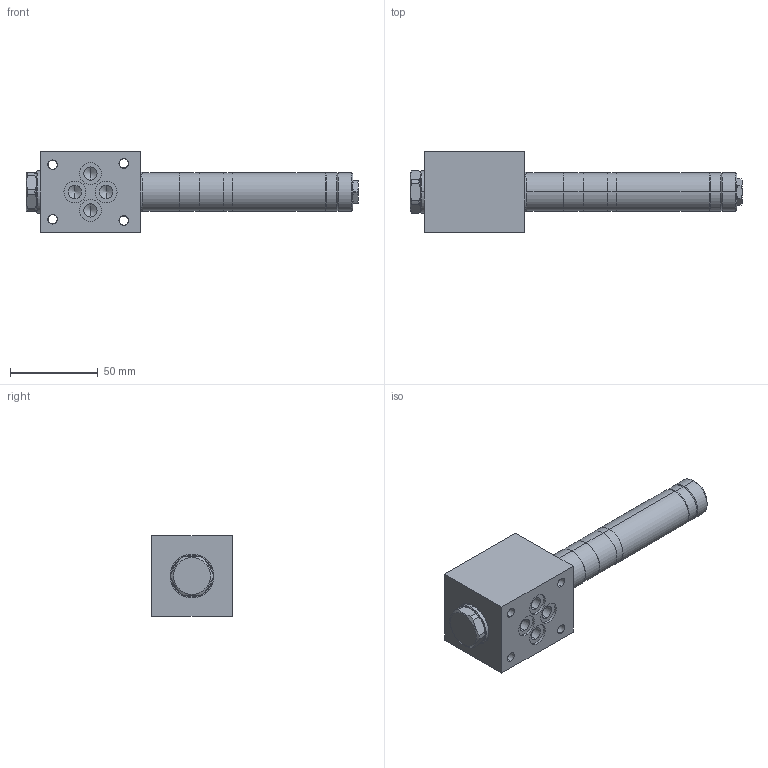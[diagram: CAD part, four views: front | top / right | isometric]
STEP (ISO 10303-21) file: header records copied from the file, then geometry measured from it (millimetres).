
FILE_DESCRIPTION (( 'STEP AP214' ), '1' );
FILE_NAME ('WDZFA06-4_2-Bside.STEP', '2015-07-23T06:48:47', ( '' ), ( '' ), 'SwSTEP 2.0', 'SolidWorks 2014', '' );
FILE_SCHEMA (( 'AUTOMOTIVE_DESIGN' ));
Length unit declared in the file: millimetre
Products named in the file (2): WDZFA06-4_2-Bside
Bounding box: 189.05 x 46 x 46 mm (x, y, z)
Volume: 163115.7 mm3; surface area: 34689.9 mm2
Topology: 7 solids, 12 shells, 323 faces, 771 edges, 488 vertices
Faces by surface type: cylinder 112, plane 104, cone 58, bspline 25, torus 24
Entity records: 14172 total; most frequent: CARTESIAN_POINT 3107, DIRECTION 1561, ORIENTED_EDGE 1518, EDGE_CURVE 759, AXIS2_PLACEMENT_3D 622, VERTEX_POINT 488, EDGE_LOOP 379, UNCERTAINTY_MEASURE_WITH_UNIT 329
